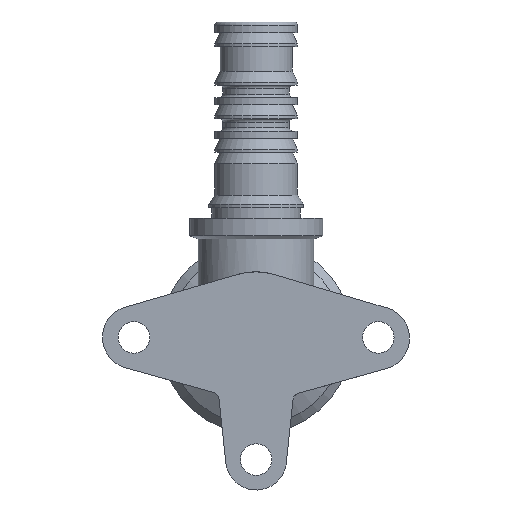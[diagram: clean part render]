
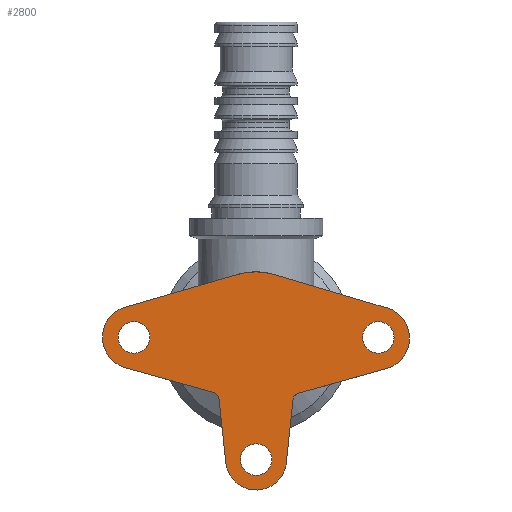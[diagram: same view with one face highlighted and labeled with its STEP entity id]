
A CAD part, front view. The second image highlights one B-rep face of the part: STEP entity #2800.
In plain terms, the highlighted planar face has unit normal (0, -1, 0).
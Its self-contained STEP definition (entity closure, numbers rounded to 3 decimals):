
#67=FACE_BOUND('',#462,.T.);
#68=FACE_BOUND('',#463,.T.);
#69=FACE_BOUND('',#464,.T.);
#137=PLANE('',#3115);
#282=FACE_OUTER_BOUND('',#461,.T.);
#461=EDGE_LOOP('',(#2473,#2474,#2475,#2476,#2477,#2478,#2479,#2480,#2481,
#2482,#2483,#2484));
#462=EDGE_LOOP('',(#2485));
#463=EDGE_LOOP('',(#2486));
#464=EDGE_LOOP('',(#2487));
#571=LINE('',#4107,#762);
#578=LINE('',#4134,#769);
#582=LINE('',#4143,#773);
#585=LINE('',#4151,#776);
#588=LINE('',#4159,#779);
#590=LINE('',#4163,#781);
#762=VECTOR('',#3264,10.);
#769=VECTOR('',#3295,10.);
#773=VECTOR('',#3305,10.);
#776=VECTOR('',#3314,10.);
#779=VECTOR('',#3323,10.);
#781=VECTOR('',#3327,10.);
#968=CIRCLE('',#2897,4.5);
#971=CIRCLE('',#2902,2.25);
#972=CIRCLE('',#2904,2.25);
#973=CIRCLE('',#2906,2.25);
#974=CIRCLE('',#2909,4.352);
#975=CIRCLE('',#2912,1.);
#976=CIRCLE('',#2915,4.5);
#977=CIRCLE('',#2919,1.);
#1079=CIRCLE('',#3107,9.35);
#1134=VERTEX_POINT('',#4104);
#1135=VERTEX_POINT('',#4106);
#1136=VERTEX_POINT('',#4110);
#1139=VERTEX_POINT('',#4119);
#1140=VERTEX_POINT('',#4123);
#1141=VERTEX_POINT('',#4127);
#1142=VERTEX_POINT('',#4131);
#1143=VERTEX_POINT('',#4133);
#1144=VERTEX_POINT('',#4137);
#1145=VERTEX_POINT('',#4141);
#1146=VERTEX_POINT('',#4145);
#1147=VERTEX_POINT('',#4149);
#1148=VERTEX_POINT('',#4153);
#1149=VERTEX_POINT('',#4157);
#1150=VERTEX_POINT('',#4161);
#1432=EDGE_CURVE('',#1135,#1134,#571,.T.);
#1435=EDGE_CURVE('',#1134,#1136,#968,.T.);
#1439=EDGE_CURVE('',#1139,#1139,#971,.T.);
#1441=EDGE_CURVE('',#1140,#1140,#972,.T.);
#1443=EDGE_CURVE('',#1141,#1141,#973,.T.);
#1445=EDGE_CURVE('',#1143,#1142,#578,.T.);
#1448=EDGE_CURVE('',#1142,#1144,#974,.T.);
#1450=EDGE_CURVE('',#1144,#1145,#582,.T.);
#1452=EDGE_CURVE('',#1145,#1146,#975,.T.);
#1454=EDGE_CURVE('',#1146,#1147,#585,.T.);
#1456=EDGE_CURVE('',#1147,#1148,#976,.T.);
#1458=EDGE_CURVE('',#1148,#1149,#588,.T.);
#1460=EDGE_CURVE('',#1136,#1150,#590,.T.);
#1461=EDGE_CURVE('',#1150,#1143,#977,.T.);
#1721=EDGE_CURVE('',#1135,#1149,#1079,.T.);
#2473=ORIENTED_EDGE('',*,*,#1721,.F.);
#2474=ORIENTED_EDGE('',*,*,#1432,.T.);
#2475=ORIENTED_EDGE('',*,*,#1435,.T.);
#2476=ORIENTED_EDGE('',*,*,#1460,.T.);
#2477=ORIENTED_EDGE('',*,*,#1461,.T.);
#2478=ORIENTED_EDGE('',*,*,#1445,.T.);
#2479=ORIENTED_EDGE('',*,*,#1448,.T.);
#2480=ORIENTED_EDGE('',*,*,#1450,.T.);
#2481=ORIENTED_EDGE('',*,*,#1452,.T.);
#2482=ORIENTED_EDGE('',*,*,#1454,.T.);
#2483=ORIENTED_EDGE('',*,*,#1456,.T.);
#2484=ORIENTED_EDGE('',*,*,#1458,.T.);
#2485=ORIENTED_EDGE('',*,*,#1443,.T.);
#2486=ORIENTED_EDGE('',*,*,#1441,.T.);
#2487=ORIENTED_EDGE('',*,*,#1439,.T.);
#2800=ADVANCED_FACE('',(#282,#67,#68,#69),#137,.T.);
#2897=AXIS2_PLACEMENT_3D('',#4112,#3269,#3270);
#2902=AXIS2_PLACEMENT_3D('',#4121,#3280,#3281);
#2904=AXIS2_PLACEMENT_3D('',#4125,#3285,#3286);
#2906=AXIS2_PLACEMENT_3D('',#4129,#3290,#3291);
#2909=AXIS2_PLACEMENT_3D('',#4139,#3300,#3301);
#2912=AXIS2_PLACEMENT_3D('',#4147,#3309,#3310);
#2915=AXIS2_PLACEMENT_3D('',#4155,#3318,#3319);
#2919=AXIS2_PLACEMENT_3D('',#4165,#3330,#3331);
#3107=AXIS2_PLACEMENT_3D('',#4882,#3844,#3845);
#3115=AXIS2_PLACEMENT_3D('',#4897,#3863,#3864);
#3264=DIRECTION('',(-0.96,0.,-0.278));
#3269=DIRECTION('center_axis',(0.,-1.,0.));
#3270=DIRECTION('ref_axis',(1.,0.,0.));
#3280=DIRECTION('center_axis',(0.,1.,0.));
#3281=DIRECTION('ref_axis',(-1.,0.,0.));
#3285=DIRECTION('center_axis',(0.,1.,0.));
#3286=DIRECTION('ref_axis',(-1.,0.,0.));
#3290=DIRECTION('center_axis',(0.,1.,0.));
#3291=DIRECTION('ref_axis',(-1.,0.,0.));
#3295=DIRECTION('',(0.106,0.,-0.994));
#3300=DIRECTION('center_axis',(0.,-1.,0.));
#3301=DIRECTION('ref_axis',(1.,0.,0.));
#3305=DIRECTION('',(0.106,0.,0.994));
#3309=DIRECTION('center_axis',(0.,1.,0.));
#3310=DIRECTION('ref_axis',(0.269,0.,-0.963));
#3314=DIRECTION('',(0.963,0.,0.269));
#3318=DIRECTION('center_axis',(0.,-1.,0.));
#3319=DIRECTION('ref_axis',(1.,0.,0.));
#3323=DIRECTION('',(-0.958,0.,0.285));
#3327=DIRECTION('',(0.963,0.,-0.269));
#3330=DIRECTION('center_axis',(0.,1.,0.));
#3331=DIRECTION('ref_axis',(-0.994,0.,-0.106));
#3844=DIRECTION('center_axis',(0.,1.,0.));
#3845=DIRECTION('ref_axis',(1.,0.,0.));
#3863=DIRECTION('center_axis',(0.,-1.,0.));
#3864=DIRECTION('ref_axis',(0.,0.,-1.));
#4104=CARTESIAN_POINT('',(-18.68,-2.866,4.322));
#4106=CARTESIAN_POINT('',(-2.602,-2.866,8.981));
#4107=CARTESIAN_POINT('',(-2.602,-2.866,8.981));
#4110=CARTESIAN_POINT('',(-18.637,-2.866,-4.335));
#4112=CARTESIAN_POINT('Origin',(-17.428,-2.866,0.));
#4119=CARTESIAN_POINT('',(19.678,-2.866,0.));
#4121=CARTESIAN_POINT('Origin',(17.428,-2.866,0.));
#4123=CARTESIAN_POINT('',(-15.178,-2.866,0.));
#4125=CARTESIAN_POINT('Origin',(-17.428,-2.866,0.));
#4127=CARTESIAN_POINT('',(2.25,-2.866,-17.428));
#4129=CARTESIAN_POINT('Origin',(0.,-2.866,-17.428));
#4131=CARTESIAN_POINT('',(-4.328,-2.866,-17.889));
#4133=CARTESIAN_POINT('',(-5.306,-2.866,-8.708));
#4134=CARTESIAN_POINT('',(-5.306,-2.866,-8.708));
#4137=CARTESIAN_POINT('',(4.352,-2.866,-17.448));
#4139=CARTESIAN_POINT('Origin',(0.,-2.866,-17.428));
#4141=CARTESIAN_POINT('',(5.271,-2.866,-8.826));
#4143=CARTESIAN_POINT('',(4.293,-2.866,-18.007));
#4145=CARTESIAN_POINT('',(5.996,-2.866,-7.969));
#4147=CARTESIAN_POINT('Origin',(6.265,-2.866,-8.932));
#4149=CARTESIAN_POINT('',(18.602,-2.866,-4.452));
#4151=CARTESIAN_POINT('',(5.996,-2.866,-7.969));
#4153=CARTESIAN_POINT('',(18.677,-2.866,4.195));
#4155=CARTESIAN_POINT('Origin',(17.393,-2.866,-0.118));
#4157=CARTESIAN_POINT('',(2.668,-2.866,8.961));
#4159=CARTESIAN_POINT('',(18.677,-2.866,4.195));
#4161=CARTESIAN_POINT('',(-6.031,-2.866,-7.851));
#4163=CARTESIAN_POINT('',(-18.637,-2.866,-4.335));
#4165=CARTESIAN_POINT('Origin',(-6.3,-2.866,-8.814));
#4882=CARTESIAN_POINT('Origin',(0.,-2.866,0.));
#4897=CARTESIAN_POINT('Origin',(0.,-2.866,9.35));
